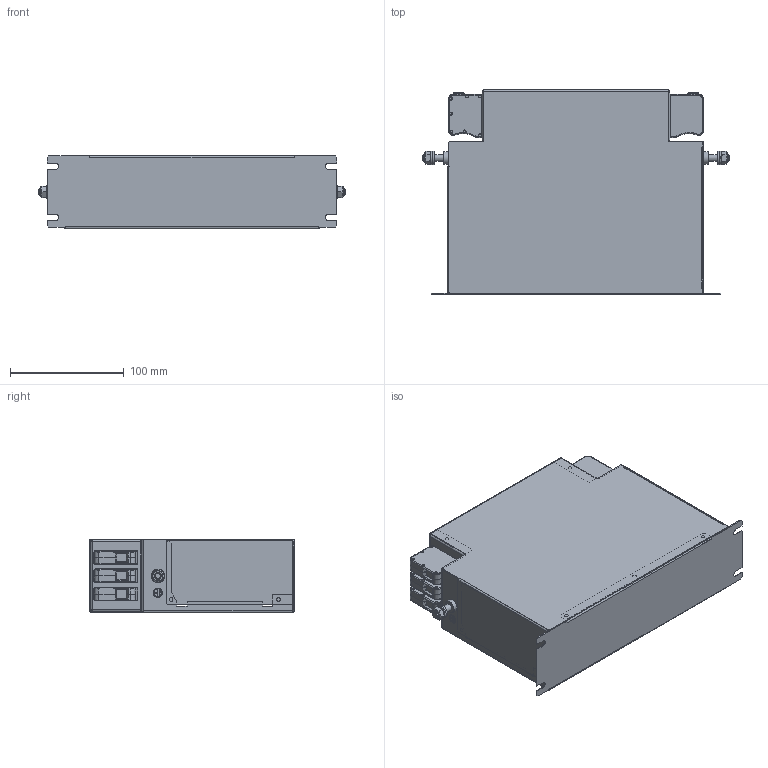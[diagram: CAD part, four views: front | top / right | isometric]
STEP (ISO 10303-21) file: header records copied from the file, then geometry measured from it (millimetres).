
FILE_DESCRIPTION(/* description */ ('raw material description'),/* implementation_level */ '2;1');
FILE_NAME(/* name */ 'C:\Users\Oliver.Volic\OneDrive - Schaffner EMV AG\Projekte\STEP\Wanda\FN3288-50-53.stp',/* time_stamp */ '2018-06-27T14:35:35+02:00',/* author */ ('Oliver.Volic'),/* organization */ ('Schaffner EMV AG'),/* preprocessor_version */ 'ST-DEVELOPER v16.5',/* originating_system */ 'Autodesk Inventor 2017',/* authorisation */ '');
FILE_SCHEMA (('AUTOMOTIVE_DESIGN { 1 0 10303 214 3 1 1 }'));
Products named in the file (1): FN3288-50-53
Bounding box: 269.8 x 180.05 x 65 mm (x, y, z)
Volume: 198266.8 mm3; surface area: 281873.8 mm2
Topology: 7 solids, 11 shells, 1717 faces, 4238 edges, 2517 vertices
Faces by surface type: plane 686, cylinder 499, bspline 289, torus 135, cone 108
Full cylindrical faces by diameter (mm): 3.3 x13, 5.459 x2, 6 x4, 6.4 x2, 7 x8, 8 x2, 8.7 x6, 11.05 x2, 12 x2
Entity records: 55933 total; most frequent: CARTESIAN_POINT 15400, DIRECTION 8188, ORIENTED_EDGE 8044, EDGE_CURVE 4016, AXIS2_PLACEMENT_3D 3123, VERTEX_POINT 2453, LINE 1942, VECTOR 1942
